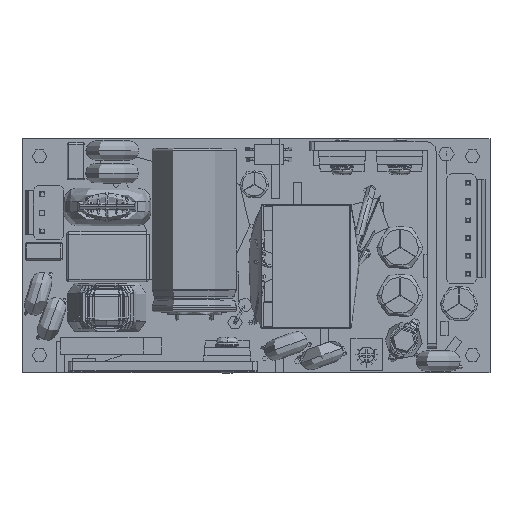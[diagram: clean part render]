
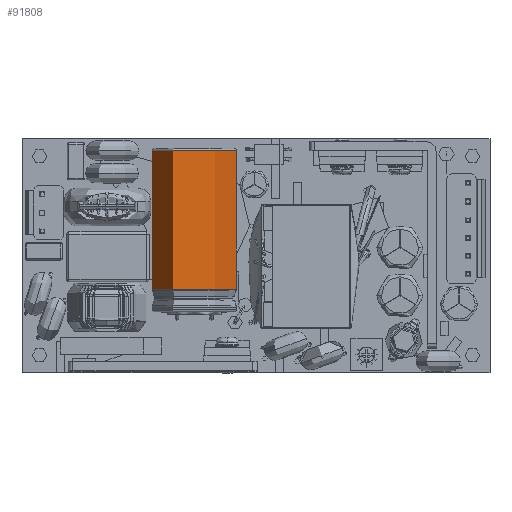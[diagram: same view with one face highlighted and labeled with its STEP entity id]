
A CAD part, top view. The second image highlights one B-rep face of the part: STEP entity #91808.
In plain terms, the highlighted cylindrical face has radius 9.15 mm (diameter 18.3 mm), a partial arc.
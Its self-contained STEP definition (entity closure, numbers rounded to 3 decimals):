
#357 = CARTESIAN_POINT ( 'NONE',  ( -3.56, 24.346, 9.55 ) ) ;
#9484 = VECTOR ( 'NONE', #31188, 1000. ) ;
#10093 = DIRECTION ( 'NONE',  ( 0., -1., 0. ) ) ;
#14580 = DIRECTION ( 'NONE',  ( -1., 0., 0. ) ) ;
#18375 = EDGE_CURVE ( 'NONE', #83621, #97294, #76087, .T. ) ;
#22156 = DIRECTION ( 'NONE',  ( 0., -1., 0. ) ) ;
#22272 = EDGE_CURVE ( 'NONE', #27484, #83621, #60733, .T. ) ;
#22801 = CARTESIAN_POINT ( 'NONE',  ( -12.71, 24.346, 9.55 ) ) ;
#24492 = ORIENTED_EDGE ( 'NONE', *, *, #39450, .T. ) ;
#27349 = CARTESIAN_POINT ( 'NONE',  ( -3.56, -6.186, 9.55 ) ) ;
#27484 = VERTEX_POINT ( 'NONE', #47871 ) ;
#28164 = CARTESIAN_POINT ( 'NONE',  ( -21.86, -6.186, 9.55 ) ) ;
#31188 = DIRECTION ( 'NONE',  ( 0., -1., 0. ) ) ;
#39136 = EDGE_LOOP ( 'NONE', ( #24492, #46904, #54484, #52629 ) ) ;
#39450 = EDGE_CURVE ( 'NONE', #46821, #27484, #97995, .T. ) ;
#41022 = DIRECTION ( 'NONE',  ( 1., 0., 0. ) ) ;
#43108 = CARTESIAN_POINT ( 'NONE',  ( -3.56, 23.846, 9.55 ) ) ;
#43704 = AXIS2_PLACEMENT_3D ( 'NONE', #22801, #53776, #84587 ) ;
#46821 = VERTEX_POINT ( 'NONE', #43108 ) ;
#46904 = ORIENTED_EDGE ( 'NONE', *, *, #22272, .T. ) ;
#47871 = CARTESIAN_POINT ( 'NONE',  ( -21.86, 23.846, 9.55 ) ) ;
#52629 = ORIENTED_EDGE ( 'NONE', *, *, #53105, .F. ) ;
#53105 = EDGE_CURVE ( 'NONE', #46821, #97294, #69739, .T. ) ;
#53135 = CARTESIAN_POINT ( 'NONE',  ( -12.71, -6.186, 9.55 ) ) ;
#53776 = DIRECTION ( 'NONE',  ( 0., -1., 0. ) ) ;
#54348 = AXIS2_PLACEMENT_3D ( 'NONE', #79466, #10093, #41022 ) ;
#54484 = ORIENTED_EDGE ( 'NONE', *, *, #18375, .T. ) ;
#60733 = LINE ( 'NONE', #91546, #95657 ) ;
#61382 = FACE_OUTER_BOUND ( 'NONE', #39136, .T. ) ;
#69739 = LINE ( 'NONE', #357, #9484 ) ;
#76087 = CIRCLE ( 'NONE', #88966, 9.15 ) ;
#79466 = CARTESIAN_POINT ( 'NONE',  ( -12.71, 23.846, 9.55 ) ) ;
#83621 = VERTEX_POINT ( 'NONE', #28164 ) ;
#83938 = DIRECTION ( 'NONE',  ( 0., 1., 0. ) ) ;
#84587 = DIRECTION ( 'NONE',  ( 1., 0., 0. ) ) ;
#88966 = AXIS2_PLACEMENT_3D ( 'NONE', #53135, #83938, #14580 ) ;
#91546 = CARTESIAN_POINT ( 'NONE',  ( -21.86, 24.346, 9.55 ) ) ;
#91808 = ADVANCED_FACE ( 'NONE', ( #61382 ), #92195, .T. ) ;
#92195 = CYLINDRICAL_SURFACE ( 'NONE', #43704, 9.15 ) ;
#95657 = VECTOR ( 'NONE', #22156, 1000. ) ;
#97294 = VERTEX_POINT ( 'NONE', #27349 ) ;
#97995 = CIRCLE ( 'NONE', #54348, 9.15 ) ;
